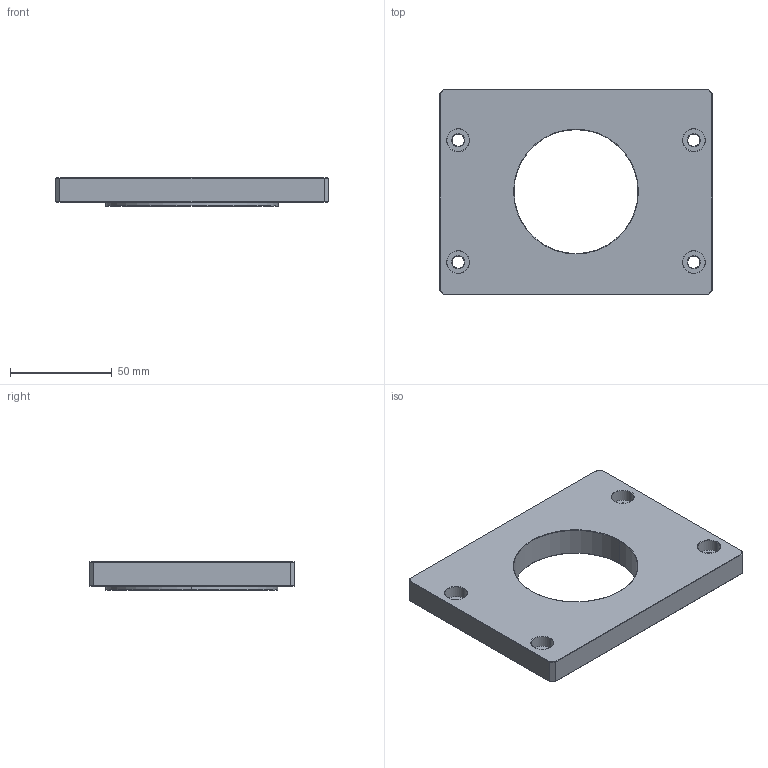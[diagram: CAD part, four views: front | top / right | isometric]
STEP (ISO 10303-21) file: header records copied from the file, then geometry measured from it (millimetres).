
FILE_DESCRIPTION((''),'2;1');
FILE_NAME('MI100','2017-05-23T',('Owner'),(''),'PRO/ENGINEER BY PARAMETRIC TECHNOLOGY CORPORATION, 2009440','PRO/ENGINEER BY PARAMETRIC TECHNOLOGY CORPORATION, 2009440','');
FILE_SCHEMA(('CONFIG_CONTROL_DESIGN'));
Length unit declared in the file: millimetre
Products named in the file (1): MI100
Bounding box: 134 x 101 x 14 mm (x, y, z)
Volume: 129707.1 mm3; surface area: 30872.7 mm2
Topology: 1 solids, 1 shells, 81 faces, 176 edges, 102 vertices
Faces by surface type: plane 31, torus 30, cylinder 20
Entity records: 2260 total; most frequent: DIRECTION 438, CARTESIAN_POINT 359, ORIENTED_EDGE 352, AXIS2_PLACEMENT_3D 181, EDGE_CURVE 176, VERTEX_POINT 102, CIRCLE 100, EDGE_LOOP 96
